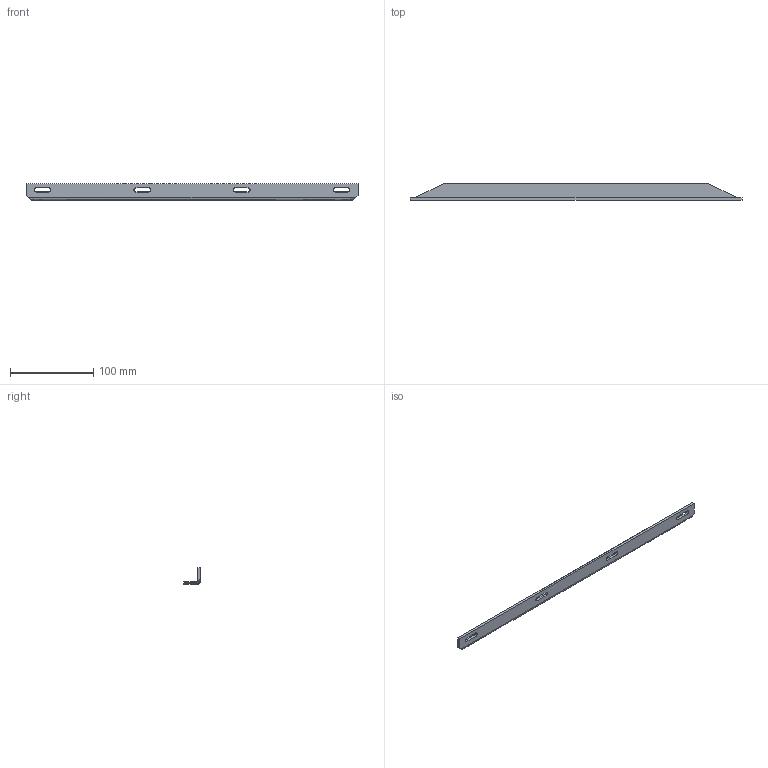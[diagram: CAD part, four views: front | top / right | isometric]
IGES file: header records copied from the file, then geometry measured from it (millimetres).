
Start section: SolidWorks IGES file using analytic representation for surfaces
Bounding box: 400 x 20 x 20 mm (x, y, z)
Surface area: 29631.9 mm2 (no closed solid volume)
Topology: 0 solids, 0 shells, 84 faces, 826 edges, 826 vertices
Faces by surface type: bspline 68, revolution 16
